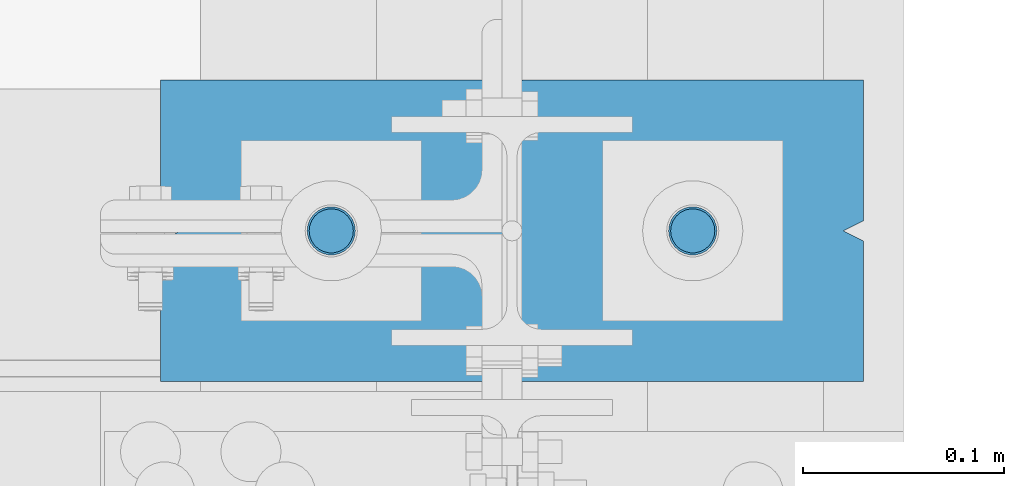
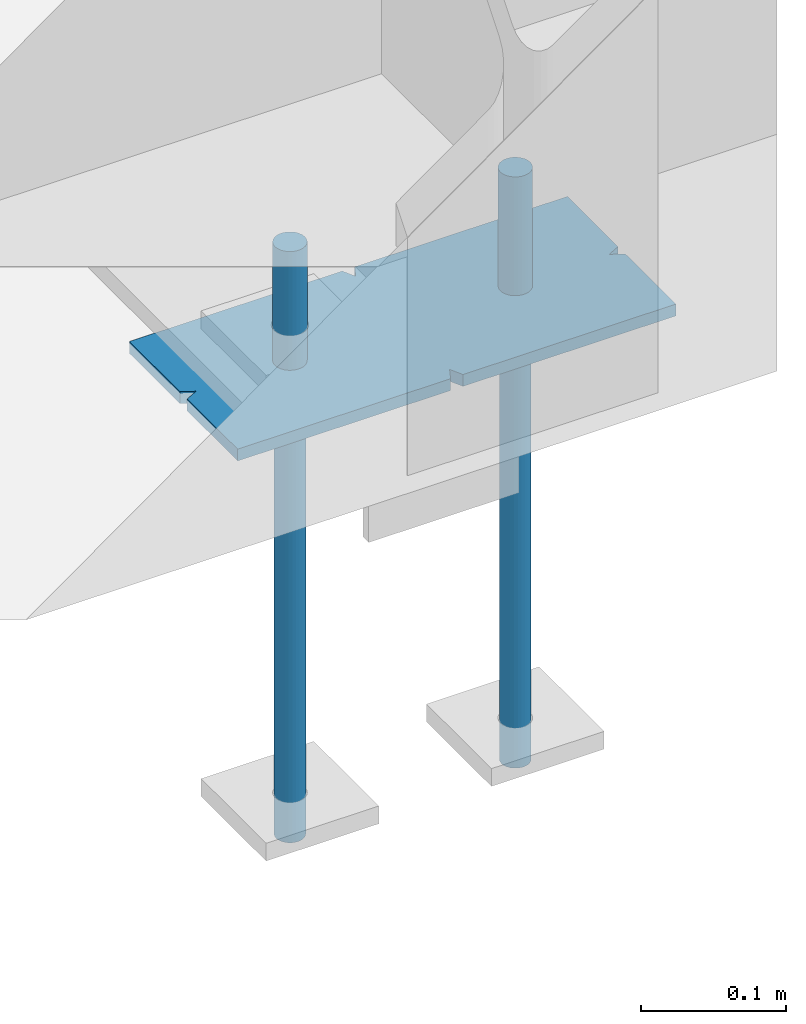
# One storey, part 106 of 362: 5 beams, 1 element without a shape of its own.
"""IFC2X3 building model written with IfcOpenShell, lengths in millimetres."""

from ifc_helpers import new_model, si_unit, frame, origin_with_axes, origin_2d_with_axis, place, context, subcontext, project, spatial, polyline, rectangle, circle, outline, extrude, boolean, material, type_object, element, aggregate, save


model = new_model("IFC2X3")

# Units and contexts
model_context = context("Model", 3, precision=1e-05, world=origin_with_axes())
body_context = subcontext(model_context, "Body", "Model", "MODEL_VIEW")
ifc_project = project(units=[si_unit("LENGTHUNIT", "METRE", prefix="MILLI"), si_unit("AREAUNIT", "SQUARE_METRE"), si_unit("VOLUMEUNIT", "CUBIC_METRE"), si_unit("MASSUNIT", "GRAM", prefix="KILO"), si_unit("TIMEUNIT", "SECOND"), si_unit("PLANEANGLEUNIT", "RADIAN"), si_unit("SOLIDANGLEUNIT", "STERADIAN"), si_unit("THERMODYNAMICTEMPERATUREUNIT", "DEGREE_CELSIUS"), si_unit("LUMINOUSINTENSITYUNIT", "LUMEN")], contexts=[model_context])

# Site, building, storey
site_placement = place(None, origin_with_axes())
site = spatial("IfcSite", under=ifc_project, at=site_placement, Name="Undefined", CompositionType="ELEMENT")
building_placement = place(site_placement, origin_with_axes())
building = spatial("IfcBuilding", under=site, at=building_placement, Name="Undefined", CompositionType="ELEMENT")
storey_placement = place(building_placement, origin_with_axes())
storey = spatial("IfcBuildingStorey", under=building, at=storey_placement, Name="Undefined", CompositionType="ELEMENT", Elevation=0.0)

# Assembly, beams
assembly_placement = place(storey_placement, origin_with_axes())
assembly = element("IfcElementAssembly", 1, at=assembly_placement, inside=storey, Name="PRESCELLEMENT PS24", AssemblyPlace="NOTDEFINED", PredefinedType="NOTDEFINED")
ifc_material = material(Name="Undefined/S235-E24")
beam_type_1 = type_object("IfcBeamType", Name="D24", PredefinedType="NOTDEFINED")
beam_1_placement = place(assembly_placement, frame((39539.9971504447, 0.0, -100.0), z_axis=(0.0, 1.0, 0.0), x_axis=(0.0, 0.0, -1.0)))
beam_1 = element("IfcBeam", 2, at=beam_1_placement, type_object=beam_type_1, material=ifc_material, Name="TIGE D'ANCRAGE", ObjectType="D24", context=body_context, shape_type="SweptSolid", body=[
    extrude(circle(Radius=12.0, at=origin_2d_with_axis()), frame((150.0, 0.0, 0.0), z_axis=(-1.0, 0.0, 0.0), x_axis=(0.0, -1.0, 0.0)), (0.0, 0.0, 1.0), 150.0),
])
beam_2_placement = place(assembly_placement, frame((39719.9971504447, 0.0, -100.0), z_axis=(0.0, 1.0, 0.0), x_axis=(0.0, 0.0, -1.0)))
beam_2 = element("IfcBeam", 3, at=beam_2_placement, type_object=beam_type_1, material=ifc_material, Name="TIGE D'ANCRAGE", ObjectType="D24", context=body_context, shape_type="SweptSolid", body=[
    extrude(circle(Radius=12.0, at=origin_2d_with_axis()), frame((150.0, 0.0, 0.0), z_axis=(-1.0, 0.0, 0.0), x_axis=(0.0, -1.0, 0.0)), (0.0, 0.0, 1.0), 150.0),
])
beam_type_2 = type_object("IfcBeamType", Name="D22", PredefinedType="NOTDEFINED")
beam_3_placement = place(assembly_placement, frame((39539.9971504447, 0.0, -250.0), z_axis=(0.0, 1.0, 0.0), x_axis=(0.0, 0.0, -1.0)))
beam_3 = element("IfcBeam", 4, at=beam_3_placement, type_object=beam_type_2, material=ifc_material, Name="TIGE D'ANCRAGE", ObjectType="D22", context=body_context, shape_type="SweptSolid", body=[
    extrude(circle(Radius=11.0, at=origin_2d_with_axis()), frame((350.0, 0.0, 0.0), z_axis=(-1.0, 0.0, 0.0), x_axis=(0.0, -1.0, 0.0)), (0.0, 0.0, 1.0), 350.0),
])
beam_4_placement = place(assembly_placement, frame((39719.9971504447, 0.0, -250.0), z_axis=(0.0, 1.0, 0.0), x_axis=(0.0, 0.0, -1.0)))
beam_4 = element("IfcBeam", 5, at=beam_4_placement, type_object=beam_type_2, material=ifc_material, Name="TIGE D'ANCRAGE", ObjectType="D22", context=body_context, shape_type="SweptSolid", body=[
    extrude(circle(Radius=11.0, at=origin_2d_with_axis()), frame((350.0, 0.0, 0.0), z_axis=(-1.0, 0.0, 0.0), x_axis=(0.0, -1.0, 0.0)), (0.0, 0.0, 1.0), 350.0),
])
beam_type_3 = type_object("IfcBeamType", Name="PL10*150", PredefinedType="NOTDEFINED")
beam_5_placement = place(assembly_placement, frame((39805.0, 0.0, -205.0), z_axis=(0.0, -1.0, 0.0), x_axis=(-1.0, 0.0, 0.0)))
beam_5 = element("IfcBeam", 6, at=beam_5_placement, type_object=beam_type_3, material=ifc_material, Name="PRESCELLEMENT PS24", ObjectType="PL10*150", context=body_context, shape_type="CSG", body=[
    boolean("DIFFERENCE", boolean("DIFFERENCE", boolean("DIFFERENCE", boolean("DIFFERENCE", extrude(rectangle(XDim=10.0, YDim=150.0, at=origin_2d_with_axis()), frame((350.0, 0.0, 0.0), z_axis=(-1.0, 0.0, 0.0), x_axis=(0.0, -1.0, 0.0)), (0.0, 0.0, 1.0), 350.0), extrude(outline(polyline([(0.0, 0.0), (11.1803398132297, 1.2732925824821e-11), (4.47213602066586, 8.94427204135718), (0.0, 0.0)])), frame((0.0, 7.5, -5.0), z_axis=(0.0, -1.0, 0.0), x_axis=(0.894427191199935, 0.0, 0.44721359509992)), (0.0, 0.0, 1.0), 15.0)), extrude(outline(polyline([(0.0, 0.0), (11.1803398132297, 1.2732925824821e-11), (4.47213602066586, 8.94427204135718), (0.0, 0.0)])), frame((180.0, 7.5, -75.0), z_axis=(0.0, -1.0, 0.0), x_axis=(-0.447213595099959, 0.0, 0.894427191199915)), (0.0, 0.0, 1.0), 15.0)), extrude(outline(polyline([(0.0, 0.0), (11.1803398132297, 1.2732925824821e-11), (6.70820379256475, 8.94427204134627), (0.0, 0.0)])), frame((340.0, 7.5, 0.0), z_axis=(0.0, -1.0, 0.0), x_axis=(0.894427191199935, 0.0, -0.44721359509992)), (0.0, 0.0, 1.0), 15.0)), extrude(outline(polyline([(0.0, 0.0), (11.1803398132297, 1.2732925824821e-11), (4.47213602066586, 8.94427204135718), (0.0, 0.0)])), frame((170.0, 7.5, 75.0), z_axis=(0.0, -1.0, 0.0), x_axis=(0.447213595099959, 0.0, -0.894427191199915)), (0.0, 0.0, 1.0), 15.0)),
])
aggregate(assembly, [beam_1, beam_3, beam_2, beam_4, beam_5])

save(model, "model.ifc")
